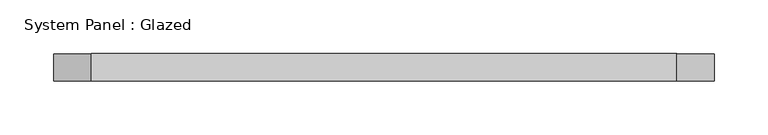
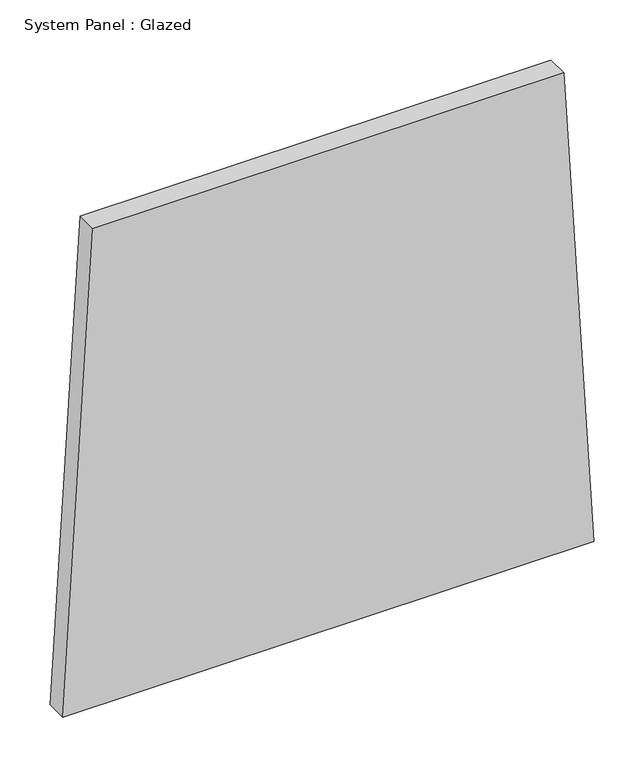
"""IFC4 building model written with IfcOpenShell, lengths in millimetres: plate geometry, System Panel : Glazed."""

from ifc_helpers import new_model, si_unit, frame, origin, place, context, project, spatial, polyline, outline, extrude, source, transform, mapped, element, save


def system_panel_glazed_4b3f9bf2(model_context):
    return source(origin(), model_context, "Body", "SweptSolid", [
        extrude(outline(polyline([(0.0, -305.7742322), (0.0, 305.7742322), (583.1337795, 271.2396254), (583.1337795, -271.2396254), (0.0, -305.7742322)])), frame((0.0, -44.45, 0.0), z_axis=(0.0, 1.0, 0.0), x_axis=(0.0, 0.0, 1.0)), (0.0, 0.0, 1.0), 25.4),
    ])


if __name__ == "__main__":
    model = new_model("IFC4")
    model_context = context("Model", 3, world=origin())
    ifc_project = project(units=[si_unit("LENGTHUNIT", "METRE", prefix="MILLI")], contexts=[model_context])
    site = spatial("IfcSite", under=ifc_project)
    building = spatial("IfcBuilding", under=site)
    placement = place(None, origin())
    system_panel_glazed_shape = system_panel_glazed_4b3f9bf2(model_context)
    element("IfcPlate", 1, ObjectType="System Panel : Glazed", at=placement, inside=building, context=model_context, shape_type="MappedRepresentation", body=[
        mapped(system_panel_glazed_shape, transform((0.0, 0.0, 0.0), x_axis=(1.0, 0.0, 0.0), y_axis=(0.0, 1.0, 0.0), z_axis=(0.0, 0.0, 1.0))),
    ])
    save(model, "model.ifc")
